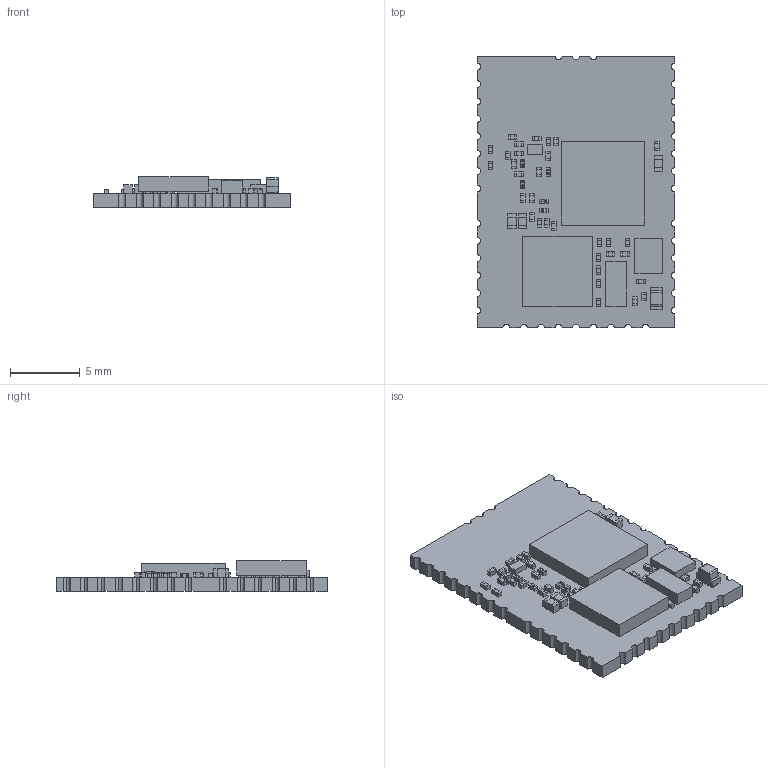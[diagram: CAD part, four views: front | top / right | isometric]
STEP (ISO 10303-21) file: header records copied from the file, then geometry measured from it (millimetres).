
FILE_DESCRIPTION(('Open CASCADE Model'),'2;1');
FILE_NAME('Open CASCADE Shape Model','2019-12-09T15:29:07',('Author'),( 'Open CASCADE'),'Open CASCADE STEP processor 6.8','Open CASCADE 6.8' ,'Unknown');
FILE_SCHEMA(('AUTOMOTIVE_DESIGN { 1 0 10303 214 1 1 1 1 }'));
Length unit declared in the file: millimetre
Products named in the file (78): PCB; Board; Open CASCADE STEP translator 6.8 4.1.1; Open CASCADE STEP translator 6.8 4.1.1.1; R202; 7818461024; Extruded; 7818461104; 7818449424; R201; D200; AP1608; L103; LQP03TN_06-62; C100; 7818456304; 7818453824; U200; 7818445824; R100; C122; R206; C210; 7818457344; C209; C208; C201; L102; L101; L100; C111; C110; C109; C106; C105; U100; 7818448384; X100; 7818456704; L104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
Assembly tree (178 placements, depth 4):
  PCB
    Board
      Open CASCADE STEP translator 6.8 4.1.1
        Open CASCADE STEP translator 6.8 4.1.1.1
    R202
      7818461024
        Extruded
      7818461104
        Extruded
      7818449424
        Extruded
    R201
      7818461024
        Extruded
      7818461104
        Extruded
      7818449424
        Extruded
    D200
      AP1608
    L103
      LQP03TN_06-62
    C100
      7818456304
        Extruded
      7818453824  x2
        Extruded
    U200
      7818445824
        Extruded
    R100
      7818461024
        Extruded
      7818461104
        Extruded
      7818449424
        Extruded
    C122
      7818456304
        Extruded
      7818453824  x2
        Extruded
    R206
      7818461024
        Extruded
      7818461104
        Extruded
      7818449424
        Extruded
    C210
      7818456304
        Extruded
      7818457344  x2
        Extruded
    C209
      7818456304
        Extruded
      7818457344  x2
        Extruded
    C208
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Bounding box: 14.2 x 19.5 x 2.22 mm (x, y, z)
Volume: 352.6 mm3; surface area: 912.5 mm2
Topology: 141 solids, 141 shells, 1298 faces, 2949 edges, 1966 vertices
Faces by surface type: plane 1113, bspline 116, cylinder 69
Entity records: 26951 total; most frequent: CARTESIAN_POINT 9494, ORIENTED_EDGE 2850, DIRECTION 2545, EDGE_CURVE 1425, LINE 1071, VECTOR 1071, VERTEX_POINT 950, AXIS2_PLACEMENT_3D 737
